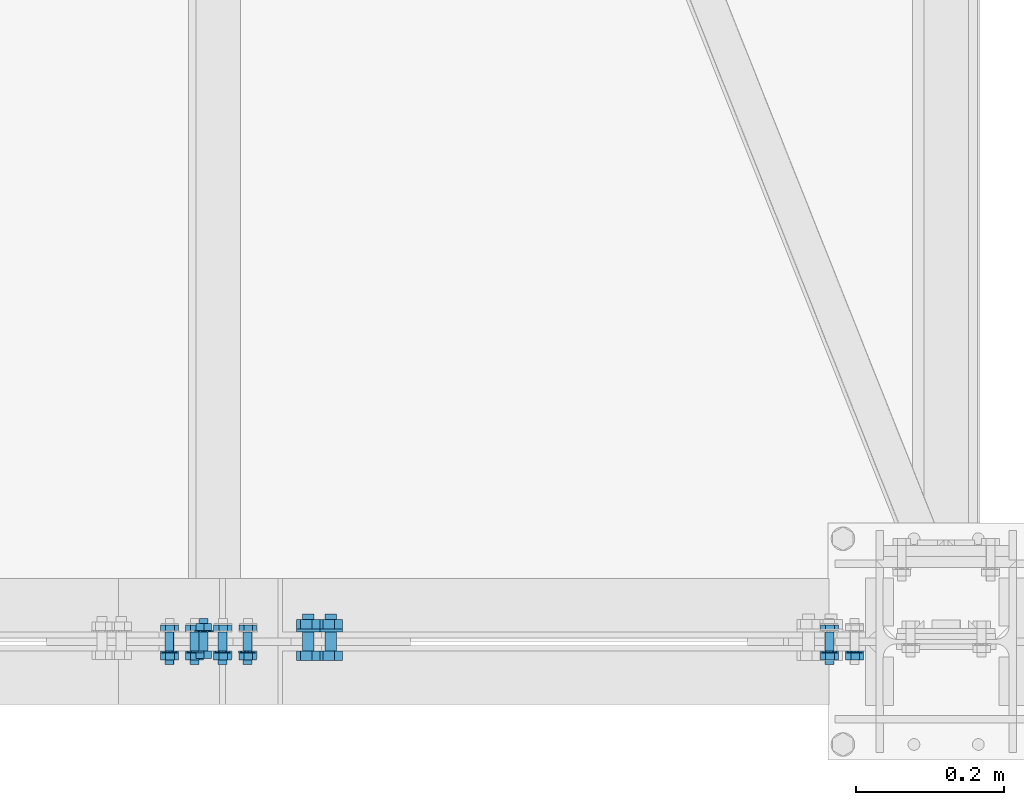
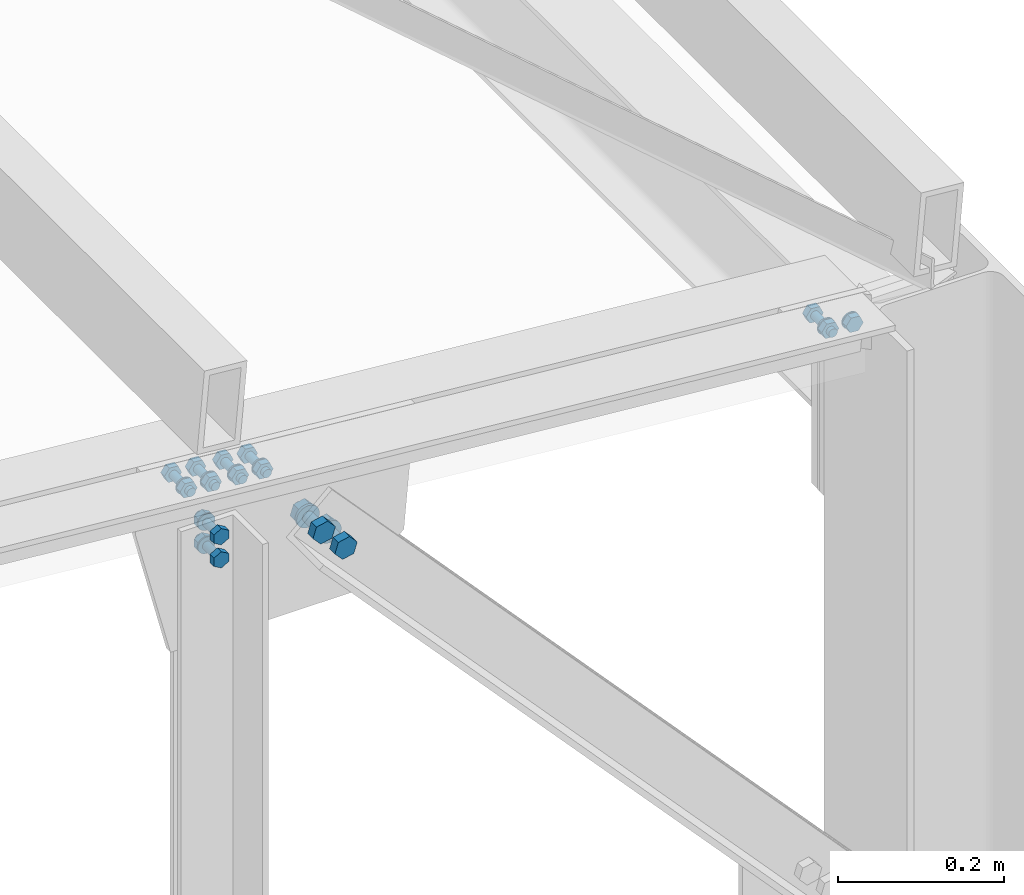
# One storey, part 96 of 251: 38 mechanical fasteners.
"""IFC4 building model written with IfcOpenShell, lengths in metres."""

import ifcopenshell
import ifcopenshell.guid

model = None  # the IFC model being written
_history = None  # IfcOwnerHistory: only IFC2X3 demands one
_inside = {}  # id of a spatial element -> (the spatial element, [elements in it])
_under = {}  # id of a project, library or spatial element -> (it, [spatial elements below it])
_declared = {}  # id of a project -> (the project, [libraries it declares])
_typed = {}  # id of a type object -> (the type object, [elements of that type])
_made_of = {}  # id of a material, layer set ... -> (it, [elements and type objects made of it])


def new_model(schema):
    """Start an empty IFC model of exactly this schema.

    Asked for "IFC4X3", IfcOpenShell would pick the latest addendum, in which some entities
    have other attributes; the version numbers below select the first issue.
    IFC2X3 requires an IfcOwnerHistory on every rooted entity: one is made here for all.
    """
    global model, _history
    if schema == "IFC4X3":
        model = ifcopenshell.file(schema_version=(4, 3, 0, 0))
    else:
        model = ifcopenshell.file(schema=schema)
    _inside.clear()
    _under.clear()
    _declared.clear()
    _typed.clear()
    _made_of.clear()
    _history = None
    if model.schema == "IFC2X3":
        org = make("IfcOrganization", Name="unknown")
        user = make(
            "IfcPersonAndOrganization",
            ThePerson=make("IfcPerson", FamilyName="unknown"),
            TheOrganization=org,
        )
        app = make(
            "IfcApplication",
            ApplicationDeveloper=org,
            Version="unknown",
            ApplicationFullName="unknown",
            ApplicationIdentifier="unknown",
        )
        _history = make(
            "IfcOwnerHistory",
            OwningUser=user,
            OwningApplication=app,
            ChangeAction="ADDED",
            CreationDate=0,
        )
    return model


def make(cls, **values):
    """One entity of the class cls with the attributes given. An attribute that is None is left unset."""
    return model.create_entity(
        cls, **{name: value for name, value in values.items() if value is not None}
    )


def rooted(cls, **values):
    """An entity with a GlobalId (a new one), such as an element, a storey or a relation."""
    return make(cls, GlobalId=ifcopenshell.guid.new(), OwnerHistory=_history, **values)


def si_unit(unit_type, name, prefix=None):
    """IfcSIUnit, for example si_unit("LENGTHUNIT", "METRE", prefix="MILLI")."""
    return make("IfcSIUnit", UnitType=unit_type, Prefix=prefix, Name=name)


def assignment(units):
    """IfcUnitAssignment: the units of a project."""
    return None if units is None else make("IfcUnitAssignment", Units=units)


def point(xyz):
    """IfcCartesianPoint."""
    return None if xyz is None else make("IfcCartesianPoint", Coordinates=xyz)


def direction(xyz):
    """IfcDirection."""
    return None if xyz is None else make("IfcDirection", DirectionRatios=xyz)


def frame(location, z_axis=None, x_axis=None):
    """IfcAxis2Placement3D, a coordinate frame: its origin and axes. An axis left out is left unset."""
    return make(
        "IfcAxis2Placement3D",
        Location=point(location),
        Axis=direction(z_axis),
        RefDirection=direction(x_axis),
    )


def origin_with_axes():
    """The frame at (0, 0, 0) with the z axis (0, 0, 1) and the x axis (1, 0, 0) written out."""
    return frame((0.0, 0.0, 0.0), z_axis=(0.0, 0.0, 1.0), x_axis=(1.0, 0.0, 0.0))


def place(relative_to, where):
    """IfcLocalPlacement: puts the frame where relative to a parent placement (None: the world)."""
    return make(
        "IfcLocalPlacement", PlacementRelTo=relative_to, RelativePlacement=where
    )


def context(
    kind, dimensions, precision=None, world=None, true_north=None, identifier=None
):
    """IfcGeometricRepresentationContext, for example the 3D "Model" context."""
    return make(
        "IfcGeometricRepresentationContext",
        ContextIdentifier=identifier,
        ContextType=kind,
        CoordinateSpaceDimension=dimensions,
        Precision=precision,
        WorldCoordinateSystem=world,
        TrueNorth=true_north,
    )


def project(units=None, contexts=None):
    """IfcProject with its units and contexts."""
    return rooted(
        "IfcProject",
        Name="project",
        RepresentationContexts=contexts,
        UnitsInContext=assignment(units),
    )


def spatial(cls, under=None, at=None, **own):
    """A site, building, storey or space (cls), placed at a placement, below another one or the project."""
    s = rooted(cls, ObjectPlacement=at, **own)
    if under is not None:
        _under.setdefault(under.id(), (under, []))[1].append(s)
    return s


def polyline(points):
    """IfcPolyline through the points."""
    return make("IfcPolyline", Points=[point(p) for p in points])


def outline(outer, holes=None, kind="AREA"):
    """IfcArbitraryClosedProfileDef: a profile drawn as a closed curve; with holes, ...WithVoids."""
    if holes is None:
        return make("IfcArbitraryClosedProfileDef", ProfileType=kind, OuterCurve=outer)
    return make(
        "IfcArbitraryProfileDefWithVoids",
        ProfileType=kind,
        OuterCurve=outer,
        InnerCurves=holes,
    )


def extrude(swept, where, along, depth):
    """IfcExtrudedAreaSolid: the profile swept, set in the frame where, extruded along a direction by depth."""
    return make(
        "IfcExtrudedAreaSolid",
        SweptArea=swept,
        Position=where,
        ExtrudedDirection=direction(along),
        Depth=depth,
    )


def shape(context_of_items, identifier, shape_type, items):
    """IfcShapeRepresentation: the items that make up one representation, for example the "Body"."""
    return make(
        "IfcShapeRepresentation",
        ContextOfItems=context_of_items,
        RepresentationIdentifier=identifier,
        RepresentationType=shape_type,
        Items=items,
    )


def made_of(thing, what):
    """Note that an element or type object is made of a material, layer set ...; save() writes the relation."""
    if what is not None:
        _made_of.setdefault(what.id(), (what, []))[1].append(thing)
    return thing


def type_object(cls, material=None, **own):
    """A type object (cls), such as IfcWallType, which elements share."""
    return made_of(rooted(cls, **own), material)


def element(
    cls,
    number,
    at=None,
    inside=None,
    cuts=None,
    type_object=None,
    material=None,
    context=None,
    identifier="Body",
    shape_type=None,
    held_by="IfcProductDefinitionShape",
    body=None,
    shapes=None,
    **own,
):
    """One element of the class cls, such as IfcWall. Its Tag is "e" and its number.

    at: its placement. inside: the storey or other place that contains it. cuts: it is an
    opening in that element (IfcRelVoidsElement). A single representation is given by context,
    identifier, shape_type and body (its items); several are given by shapes. held_by: the class
    of the entity that holds the representations. save() writes the other relations.
    """
    e = rooted(cls, Tag="e%d" % number, ObjectPlacement=at, **own)
    if body is not None:
        shapes = [shape(context, identifier, shape_type, body)]
    if shapes is not None:
        e.Representation = make(held_by, Representations=shapes)
    if inside is not None:
        _inside.setdefault(inside.id(), (inside, []))[1].append(e)
    if cuts is not None:
        rooted(
            "IfcRelVoidsElement", RelatingBuildingElement=cuts, RelatedOpeningElement=e
        )
    if type_object is not None:
        _typed.setdefault(type_object.id(), (type_object, []))[1].append(e)
    return made_of(e, material)


def aggregate(whole, parts):
    """IfcRelAggregates: a whole, such as a stair, and the parts it consists of."""
    return rooted("IfcRelAggregates", RelatingObject=whole, RelatedObjects=parts)


def save(model, path):
    """Write the relations noted so far, then the file.

    IfcRelAggregates (storeys below a building ...), IfcRelContainedInSpatialStructure (elements
    in a storey), IfcRelDefinesByType, IfcRelAssociatesMaterial and IfcRelDeclares: one each for
    every whole, place, type object, material and project.
    """
    for whole, parts in _under.values():
        aggregate(whole, parts)
    for where, things in _inside.values():
        rooted(
            "IfcRelContainedInSpatialStructure",
            RelatedElements=things,
            RelatingStructure=where,
        )
    for kind, things in _typed.values():
        rooted("IfcRelDefinesByType", RelatedObjects=things, RelatingType=kind)
    for what, things in _made_of.values():
        rooted("IfcRelAssociatesMaterial", RelatedObjects=things, RelatingMaterial=what)
    for by, libraries in _declared.values():
        rooted("IfcRelDeclares", RelatingContext=by, RelatedDefinitions=libraries)
    model.write(path)


model = new_model("IFC4")

# Units and contexts
model_context = context("Model", 3, precision=1e-05, world=origin_with_axes())
ifc_project = project(units=[si_unit("LENGTHUNIT", "METRE"), si_unit("AREAUNIT", "SQUARE_METRE"), si_unit("VOLUMEUNIT", "CUBIC_METRE"), si_unit("MASSUNIT", "GRAM", prefix="KILO"), si_unit("TIMEUNIT", "SECOND"), si_unit("PLANEANGLEUNIT", "RADIAN"), si_unit("SOLIDANGLEUNIT", "STERADIAN"), si_unit("THERMODYNAMICTEMPERATUREUNIT", "DEGREE_CELSIUS")], contexts=[model_context])

# Site, building, storey
placement_1 = place(None, origin_with_axes())
site = spatial("IfcSite", under=ifc_project, at=placement_1, Name="Italia", CompositionType="ELEMENT")
building = spatial("IfcBuilding", under=site, at=placement_1, Name="Deposito", CompositionType="ELEMENT")
storey = spatial("IfcBuildingStorey", under=building, at=placement_1, Name="Storey 0", CompositionType="ELEMENT", Elevation=0.0)

# Mechanical fasteners
mechanical_fastener_type_1 = type_object("IfcMechanicalFastenerType", Name="Reticolare 2", PredefinedType="BOLT")
placement_2 = place(placement_1, origin_with_axes())
mechanical_fastener_1_placement = place(placement_2, origin_with_axes())
element("IfcMechanicalFastener", 1, at=mechanical_fastener_1_placement, inside=storey, type_object=mechanical_fastener_type_1, Name="Reticolare 2", NominalDiameter=0.011999, context=model_context, shape_type="SweptSolid", body=[
    extrude(outline(polyline([(0.0, 0.0), (0.0119534, 0.00104618), (0.018837, -0.00878382), (0.0137653, -0.0196595), (0.00181198, -0.0207052), (-0.00507164, -0.0108757), (0.0, 0.0)])), frame((19.8831, -0.0246, 6.01363), z_axis=(0.0, 1.0, 0.0), x_axis=(-1.0, 0.0, 0.0)), (0.0, 0.0, 1.0), 0.0096),
])
mechanical_fastener_type_2 = type_object("IfcMechanicalFastenerType", Name="Reticolare 2", PredefinedType="BOLT")
mechanical_fastener_2_placement = place(placement_2, origin_with_axes())
element("IfcMechanicalFastener", 2, at=mechanical_fastener_2_placement, inside=storey, type_object=mechanical_fastener_type_2, Name="Reticolare 2", NominalDiameter=0.024, context=model_context, shape_type="SweptSolid", body=[
    extrude(outline(polyline([(0.0, 0.0), (-0.000408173, -0.00310564), (-0.00160599, -0.00600004), (-0.00351334, -0.00848532), (-0.00599861, -0.0103922), (-0.00889397, -0.011591), (-0.0119991, -0.0120001), (-0.0151043, -0.011591), (-0.0179996, -0.0103922), (-0.0204849, -0.00848532), (-0.0223923, -0.00600004), (-0.0235901, -0.00310564), (-0.0239983, 0.0), (-0.0235901, 0.00310564), (-0.0223923, 0.00600004), (-0.0204849, 0.00848532), (-0.0179996, 0.0103922), (-0.0151043, 0.011591), (-0.0119991, 0.0120001), (-0.00889397, 0.011591), (-0.00599861, 0.0103922), (-0.00351334, 0.00848532), (-0.00160599, 0.00600004), (-0.000408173, 0.00310564), (0.0, 0.0)])), frame((19.8642, -0.015, 6.0038), z_axis=(0.0, 1.0, 0.0), x_axis=(-1.0, 0.0, 0.0)), (0.0, 0.0, 1.0), 0.002),
])
mechanical_fastener_type_3 = type_object("IfcMechanicalFastenerType", Name="Reticolare 2", PredefinedType="BOLT")
mechanical_fastener_3_placement = place(placement_2, origin_with_axes())
element("IfcMechanicalFastener", 3, at=mechanical_fastener_3_placement, inside=storey, type_object=mechanical_fastener_type_3, Name="Reticolare 2", NominalDiameter=0.011999, context=model_context, shape_type="SweptSolid", body=[
    extrude(outline(polyline([(0.0, 0.0), (0.0119534, 0.0010457), (0.018837, -0.00878429), (0.0137653, -0.01966), (0.00181198, -0.0207057), (-0.00507164, -0.0108757), (0.0, 0.0)])), frame((19.8492, 0.013, 6.0166), z_axis=(0.0, 1.0, 0.0), x_axis=(-1.0, 0.0, 0.0)), (0.0, 0.0, 1.0), 0.0096),
])
mechanical_fastener_type_4 = type_object("IfcMechanicalFastenerType", Name="Reticolare 2", PredefinedType="BOLT")
mechanical_fastener_4_placement = place(placement_2, origin_with_axes())
element("IfcMechanicalFastener", 4, at=mechanical_fastener_4_placement, inside=storey, type_object=mechanical_fastener_type_4, Name="Reticolare 2", NominalDiameter=0.012, context=model_context, shape_type="SweptSolid", body=[
    extrude(outline(polyline([(0.0, 0.0), (-0.000204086, -0.00155306), (-0.000804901, -0.00299978), (-0.00175858, -0.00424242), (-0.00300026, -0.00519609), (-0.00444794, -0.00579548), (-0.00600052, -0.00600004), (-0.0075531, -0.00579548), (-0.00900078, -0.00519609), (-0.0102425, -0.00424242), (-0.0111961, -0.00299978), (-0.011797, -0.00155306), (-0.012001, 0.0), (-0.011797, 0.00155306), (-0.0111961, 0.00299978), (-0.0102425, 0.00424242), (-0.00900078, 0.00519609), (-0.0075531, 0.00579548), (-0.00600052, 0.00600004), (-0.00444794, 0.00579548), (-0.00300026, 0.00519609), (-0.00175858, 0.00424242), (-0.000804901, 0.00299978), (-0.000204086, 0.00155306), (0.0, 0.0)])), frame((19.8363, -0.031, 6.00677), z_axis=(0.0, 1.0, 0.0), x_axis=(-1.0, 0.0, 0.0)), (0.0, 0.0, 1.0), 0.044),
])
mechanical_fastener_type_5 = type_object("IfcMechanicalFastenerType", Name="Reticolare 2", PredefinedType="BOLT")
mechanical_fastener_5_placement = place(placement_2, origin_with_axes())
element("IfcMechanicalFastener", 5, at=mechanical_fastener_5_placement, inside=storey, type_object=mechanical_fastener_type_5, Name="Reticolare 2", NominalDiameter=0.011999, context=model_context, shape_type="SweptSolid", body=[
    extrude(outline(polyline([(0.0, 0.0), (0.0119534, 0.0010457), (0.018837, -0.00878429), (0.0137653, -0.01966), (0.00181198, -0.0207057), (-0.00507164, -0.0108757), (0.0, 0.0)])), frame((19.8492, -0.0246, 6.0166), z_axis=(0.0, 1.0, 0.0), x_axis=(-1.0, 0.0, 0.0)), (0.0, 0.0, 1.0), 0.0096),
])
mechanical_fastener_type_6 = type_object("IfcMechanicalFastenerType", Name="Reticolare 2", PredefinedType="BOLT")
mechanical_fastener_6_placement = place(placement_2, origin_with_axes())
element("IfcMechanicalFastener", 6, at=mechanical_fastener_6_placement, inside=storey, type_object=mechanical_fastener_type_6, Name="Reticolare 2", NominalDiameter=0.024, context=model_context, shape_type="SweptSolid", body=[
    extrude(outline(polyline([(0.0, 0.0), (-0.000408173, -0.00310564), (-0.00160599, -0.00600004), (-0.00351334, -0.00848532), (-0.00599861, -0.0103922), (-0.00889397, -0.011591), (-0.0119991, -0.0120001), (-0.0151043, -0.011591), (-0.0179996, -0.0103922), (-0.0204849, -0.00848532), (-0.0223923, -0.00600004), (-0.0235901, -0.00310564), (-0.0239983, 0.0), (-0.0235901, 0.00310564), (-0.0223923, 0.00600004), (-0.0204849, 0.00848532), (-0.0179996, 0.0103922), (-0.0151043, 0.011591), (-0.0119991, 0.0120001), (-0.00889397, 0.011591), (-0.00599861, 0.0103922), (-0.00351334, 0.00848532), (-0.00160599, 0.00600004), (-0.000408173, 0.00310564), (0.0, 0.0)])), frame((19.8303, -0.015, 6.00677), z_axis=(0.0, 1.0, 0.0), x_axis=(-1.0, 0.0, 0.0)), (0.0, 0.0, 1.0), 0.002),
])
mechanical_fastener_type_7 = type_object("IfcMechanicalFastenerType", Name="Reticolare 2", PredefinedType="BOLT")
mechanical_fastener_7_placement = place(placement_2, origin_with_axes())
element("IfcMechanicalFastener", 7, at=mechanical_fastener_7_placement, inside=storey, type_object=mechanical_fastener_type_7, Name="Reticolare 2", NominalDiameter=0.011999, context=model_context, shape_type="SweptSolid", body=[
    extrude(outline(polyline([(0.0, 0.0), (0.0119534, 0.0010457), (0.018837, -0.00878429), (0.0137653, -0.01966), (0.00181007, -0.0207057), (-0.00507164, -0.0108757), (0.0, 0.0)])), frame((19.029, 0.013, 6.08836), z_axis=(0.0, 1.0, 0.0), x_axis=(-1.0, 0.0, 0.0)), (0.0, 0.0, 1.0), 0.0096),
])
mechanical_fastener_type_8 = type_object("IfcMechanicalFastenerType", Name="Reticolare 2", PredefinedType="BOLT")
mechanical_fastener_8_placement = place(placement_2, origin_with_axes())
element("IfcMechanicalFastener", 8, at=mechanical_fastener_8_placement, inside=storey, type_object=mechanical_fastener_type_8, Name="Reticolare 2", NominalDiameter=0.012, context=model_context, shape_type="SweptSolid", body=[
    extrude(outline(polyline([(0.0, 0.0), (-0.000204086, -0.00155306), (-0.000804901, -0.00299978), (-0.00175858, -0.00424242), (-0.00300026, -0.00519609), (-0.00444794, -0.00579548), (-0.00600052, -0.00600004), (-0.0075531, -0.00579548), (-0.00900078, -0.00519609), (-0.0102425, -0.00424242), (-0.0111961, -0.00299978), (-0.011797, -0.00155306), (-0.012001, 0.0), (-0.011797, 0.00155306), (-0.0111961, 0.00299978), (-0.0102425, 0.00424242), (-0.00900078, 0.00519609), (-0.0075531, 0.00579548), (-0.00600052, 0.00600004), (-0.00444794, 0.00579548), (-0.00300026, 0.00519609), (-0.00175858, 0.00424242), (-0.000804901, 0.00299978), (-0.000204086, 0.00155306), (0.0, 0.0)])), frame((19.0161, -0.031, 6.07853), z_axis=(0.0, 1.0, 0.0), x_axis=(-1.0, 0.0, 0.0)), (0.0, 0.0, 1.0), 0.044),
])
mechanical_fastener_type_9 = type_object("IfcMechanicalFastenerType", Name="Reticolare 2", PredefinedType="BOLT")
mechanical_fastener_9_placement = place(placement_2, origin_with_axes())
element("IfcMechanicalFastener", 9, at=mechanical_fastener_9_placement, inside=storey, type_object=mechanical_fastener_type_9, Name="Reticolare 2", NominalDiameter=0.011999, context=model_context, shape_type="SweptSolid", body=[
    extrude(outline(polyline([(0.0, 0.0), (0.0119534, 0.0010457), (0.018837, -0.00878429), (0.0137653, -0.01966), (0.00181007, -0.0207057), (-0.00507164, -0.0108757), (0.0, 0.0)])), frame((19.029, -0.0246, 6.08836), z_axis=(0.0, 1.0, 0.0), x_axis=(-1.0, 0.0, 0.0)), (0.0, 0.0, 1.0), 0.0096),
])
mechanical_fastener_type_10 = type_object("IfcMechanicalFastenerType", Name="Reticolare 2", PredefinedType="BOLT")
mechanical_fastener_10_placement = place(placement_2, origin_with_axes())
element("IfcMechanicalFastener", 10, at=mechanical_fastener_10_placement, inside=storey, type_object=mechanical_fastener_type_10, Name="Reticolare 2", NominalDiameter=0.024, context=model_context, shape_type="SweptSolid", body=[
    extrude(outline(polyline([(0.0, 0.0), (-0.000408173, -0.00310564), (-0.00160599, -0.00600004), (-0.00351334, -0.00848532), (-0.00599861, -0.0103922), (-0.00889397, -0.011591), (-0.0119991, -0.0120001), (-0.0151043, -0.011591), (-0.0179996, -0.0103922), (-0.0204849, -0.00848532), (-0.0223923, -0.00600004), (-0.0235901, -0.00310564), (-0.0239983, 0.0), (-0.0235901, 0.00310564), (-0.0223923, 0.00600004), (-0.0204849, 0.00848532), (-0.0179996, 0.0103922), (-0.0151043, 0.011591), (-0.0119991, 0.0120001), (-0.00889397, 0.011591), (-0.00599861, 0.0103922), (-0.00351334, 0.00848532), (-0.00160599, 0.00600004), (-0.000408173, 0.00310564), (0.0, 0.0)])), frame((19.0101, -0.015, 6.07853), z_axis=(0.0, 1.0, 0.0), x_axis=(-1.0, 0.0, 0.0)), (0.0, 0.0, 1.0), 0.002),
])
mechanical_fastener_type_11 = type_object("IfcMechanicalFastenerType", Name="Reticolare 2", PredefinedType="BOLT")
mechanical_fastener_11_placement = place(placement_2, origin_with_axes())
element("IfcMechanicalFastener", 11, at=mechanical_fastener_11_placement, inside=storey, type_object=mechanical_fastener_type_11, Name="Reticolare 2", NominalDiameter=0.011999, context=model_context, shape_type="SweptSolid", body=[
    extrude(outline(polyline([(0.0, 0.0), (0.0119534, 0.0010457), (0.018837, -0.00878382), (0.0137653, -0.0196595), (0.00181007, -0.0207052), (-0.00507164, -0.0108757), (0.0, 0.0)])), frame((19.0629, 0.013, 6.08539), z_axis=(0.0, 1.0, 0.0), x_axis=(-1.0, 0.0, 0.0)), (0.0, 0.0, 1.0), 0.0096),
])
mechanical_fastener_type_12 = type_object("IfcMechanicalFastenerType", Name="Reticolare 2", PredefinedType="BOLT")
mechanical_fastener_12_placement = place(placement_2, origin_with_axes())
element("IfcMechanicalFastener", 12, at=mechanical_fastener_12_placement, inside=storey, type_object=mechanical_fastener_type_12, Name="Reticolare 2", NominalDiameter=0.012, context=model_context, shape_type="SweptSolid", body=[
    extrude(outline(polyline([(0.0, 0.0), (-0.000204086, -0.00155306), (-0.000804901, -0.00299978), (-0.00175858, -0.00424242), (-0.00300026, -0.00519609), (-0.00444794, -0.00579548), (-0.00600052, -0.00600004), (-0.0075531, -0.00579548), (-0.00900078, -0.00519609), (-0.0102425, -0.00424242), (-0.0111961, -0.00299978), (-0.011797, -0.00155306), (-0.012001, 0.0), (-0.011797, 0.00155306), (-0.0111961, 0.00299978), (-0.0102425, 0.00424242), (-0.00900078, 0.00519609), (-0.0075531, 0.00579548), (-0.00600052, 0.00600004), (-0.00444794, 0.00579548), (-0.00300026, 0.00519609), (-0.00175858, 0.00424242), (-0.000804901, 0.00299978), (-0.000204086, 0.00155306), (0.0, 0.0)])), frame((19.05, -0.031, 6.07556), z_axis=(0.0, 1.0, 0.0), x_axis=(-1.0, 0.0, 0.0)), (0.0, 0.0, 1.0), 0.044),
])
mechanical_fastener_type_13 = type_object("IfcMechanicalFastenerType", Name="Reticolare 2", PredefinedType="BOLT")
mechanical_fastener_13_placement = place(placement_2, origin_with_axes())
element("IfcMechanicalFastener", 13, at=mechanical_fastener_13_placement, inside=storey, type_object=mechanical_fastener_type_13, Name="Reticolare 2", NominalDiameter=0.011999, context=model_context, shape_type="SweptSolid", body=[
    extrude(outline(polyline([(0.0, 0.0), (0.0119534, 0.0010457), (0.018837, -0.00878382), (0.0137653, -0.0196595), (0.00181007, -0.0207052), (-0.00507164, -0.0108757), (0.0, 0.0)])), frame((19.0629, -0.0246, 6.08539), z_axis=(0.0, 1.0, 0.0), x_axis=(-1.0, 0.0, 0.0)), (0.0, 0.0, 1.0), 0.0096),
])
mechanical_fastener_type_14 = type_object("IfcMechanicalFastenerType", Name="Reticolare 2", PredefinedType="BOLT")
mechanical_fastener_14_placement = place(placement_2, origin_with_axes())
element("IfcMechanicalFastener", 14, at=mechanical_fastener_14_placement, inside=storey, type_object=mechanical_fastener_type_14, Name="Reticolare 2", NominalDiameter=0.024, context=model_context, shape_type="SweptSolid", body=[
    extrude(outline(polyline([(0.0, 0.0), (-0.000408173, -0.00310564), (-0.00160599, -0.00600004), (-0.00351334, -0.00848532), (-0.00599861, -0.0103922), (-0.00889397, -0.011591), (-0.0119991, -0.0120001), (-0.0151043, -0.011591), (-0.0179996, -0.0103922), (-0.0204849, -0.00848532), (-0.0223923, -0.00600004), (-0.0235901, -0.00310564), (-0.0239983, 0.0), (-0.0235901, 0.00310564), (-0.0223923, 0.00600004), (-0.0204849, 0.00848532), (-0.0179996, 0.0103922), (-0.0151043, 0.011591), (-0.0119991, 0.0120001), (-0.00889397, 0.011591), (-0.00599861, 0.0103922), (-0.00351334, 0.00848532), (-0.00160599, 0.00600004), (-0.000408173, 0.00310564), (0.0, 0.0)])), frame((19.044, -0.015, 6.07556), z_axis=(0.0, 1.0, 0.0), x_axis=(-1.0, 0.0, 0.0)), (0.0, 0.0, 1.0), 0.002),
])
mechanical_fastener_type_15 = type_object("IfcMechanicalFastenerType", Name="Reticolare 2", PredefinedType="BOLT")
mechanical_fastener_15_placement = place(placement_2, origin_with_axes())
element("IfcMechanicalFastener", 15, at=mechanical_fastener_15_placement, inside=storey, type_object=mechanical_fastener_type_15, Name="Reticolare 2", NominalDiameter=0.011999, context=model_context, shape_type="SweptSolid", body=[
    extrude(outline(polyline([(0.0, 0.0), (0.0119534, 0.00104618), (0.018837, -0.00878382), (0.0137653, -0.0196595), (0.00181198, -0.0207052), (-0.00507164, -0.0108757), (0.0, 0.0)])), frame((18.9911, 0.013, 6.09167), z_axis=(0.0, 1.0, 0.0), x_axis=(-1.0, 0.0, 0.0)), (0.0, 0.0, 1.0), 0.0096),
])
mechanical_fastener_type_16 = type_object("IfcMechanicalFastenerType", Name="Reticolare 2", PredefinedType="BOLT")
mechanical_fastener_16_placement = place(placement_2, origin_with_axes())
element("IfcMechanicalFastener", 16, at=mechanical_fastener_16_placement, inside=storey, type_object=mechanical_fastener_type_16, Name="Reticolare 2", NominalDiameter=0.012, context=model_context, shape_type="SweptSolid", body=[
    extrude(outline(polyline([(0.0, 0.0), (-0.000204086, -0.00155306), (-0.000804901, -0.00299978), (-0.00175858, -0.00424242), (-0.00300026, -0.00519609), (-0.00444794, -0.00579548), (-0.00600052, -0.00600004), (-0.0075531, -0.00579548), (-0.00900078, -0.00519609), (-0.0102425, -0.00424242), (-0.0111961, -0.00299978), (-0.011797, -0.00155306), (-0.012001, 0.0), (-0.011797, 0.00155306), (-0.0111961, 0.00299978), (-0.0102425, 0.00424242), (-0.00900078, 0.00519609), (-0.0075531, 0.00579548), (-0.00600052, 0.00600004), (-0.00444794, 0.00579548), (-0.00300026, 0.00519609), (-0.00175858, 0.00424242), (-0.000804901, 0.00299978), (-0.000204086, 0.00155306), (0.0, 0.0)])), frame((18.9783, -0.031, 6.08184), z_axis=(0.0, 1.0, 0.0), x_axis=(-1.0, 0.0, 0.0)), (0.0, 0.0, 1.0), 0.044),
])
mechanical_fastener_type_17 = type_object("IfcMechanicalFastenerType", Name="Reticolare 2", PredefinedType="BOLT")
mechanical_fastener_17_placement = place(placement_2, origin_with_axes())
element("IfcMechanicalFastener", 17, at=mechanical_fastener_17_placement, inside=storey, type_object=mechanical_fastener_type_17, Name="Reticolare 2", NominalDiameter=0.011999, context=model_context, shape_type="SweptSolid", body=[
    extrude(outline(polyline([(0.0, 0.0), (0.0119534, 0.00104618), (0.018837, -0.00878382), (0.0137653, -0.0196595), (0.00181198, -0.0207052), (-0.00507164, -0.0108757), (0.0, 0.0)])), frame((18.9911, -0.0246, 6.09167), z_axis=(0.0, 1.0, 0.0), x_axis=(-1.0, 0.0, 0.0)), (0.0, 0.0, 1.0), 0.0096),
])
mechanical_fastener_type_18 = type_object("IfcMechanicalFastenerType", Name="Reticolare 2", PredefinedType="BOLT")
mechanical_fastener_18_placement = place(placement_2, origin_with_axes())
element("IfcMechanicalFastener", 18, at=mechanical_fastener_18_placement, inside=storey, type_object=mechanical_fastener_type_18, Name="Reticolare 2", NominalDiameter=0.024, context=model_context, shape_type="SweptSolid", body=[
    extrude(outline(polyline([(0.0, 0.0), (-0.000408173, -0.00310564), (-0.00160599, -0.00600004), (-0.00351334, -0.00848532), (-0.00599861, -0.0103922), (-0.00889397, -0.011591), (-0.0119991, -0.0120001), (-0.0151043, -0.011591), (-0.0179996, -0.0103922), (-0.0204849, -0.00848532), (-0.0223923, -0.00600004), (-0.0235901, -0.00310564), (-0.0239983, 0.0), (-0.0235901, 0.00310564), (-0.0223923, 0.00600004), (-0.0204849, 0.00848532), (-0.0179996, 0.0103922), (-0.0151043, 0.011591), (-0.0119991, 0.0120001), (-0.00889397, 0.011591), (-0.00599861, 0.0103922), (-0.00351334, 0.00848532), (-0.00160599, 0.00600004), (-0.000408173, 0.00310564), (0.0, 0.0)])), frame((18.9723, -0.015, 6.08184), z_axis=(0.0, 1.0, 0.0), x_axis=(-1.0, 0.0, 0.0)), (0.0, 0.0, 1.0), 0.002),
])
mechanical_fastener_type_19 = type_object("IfcMechanicalFastenerType", Name="Reticolare 2", PredefinedType="BOLT")
mechanical_fastener_19_placement = place(placement_2, origin_with_axes())
element("IfcMechanicalFastener", 19, at=mechanical_fastener_19_placement, inside=storey, type_object=mechanical_fastener_type_19, Name="Reticolare 2", NominalDiameter=0.011999, context=model_context, shape_type="SweptSolid", body=[
    extrude(outline(polyline([(0.0, 0.0), (0.0119534, 0.0010457), (0.018837, -0.00878429), (0.0137653, -0.01966), (0.00181198, -0.0207057), (-0.00507164, -0.0108757), (0.0, 0.0)])), frame((18.9573, 0.013, 6.09463), z_axis=(0.0, 1.0, 0.0), x_axis=(-1.0, 0.0, 0.0)), (0.0, 0.0, 1.0), 0.0096),
])
mechanical_fastener_type_20 = type_object("IfcMechanicalFastenerType", Name="Reticolare 2", PredefinedType="BOLT")
mechanical_fastener_20_placement = place(placement_2, origin_with_axes())
element("IfcMechanicalFastener", 20, at=mechanical_fastener_20_placement, inside=storey, type_object=mechanical_fastener_type_20, Name="Reticolare 2", NominalDiameter=0.012, context=model_context, shape_type="SweptSolid", body=[
    extrude(outline(polyline([(0.0, 0.0), (-0.000204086, -0.00155306), (-0.000804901, -0.00299978), (-0.00175858, -0.00424242), (-0.00300026, -0.00519609), (-0.00444794, -0.00579548), (-0.00600052, -0.00600004), (-0.0075531, -0.00579548), (-0.00900078, -0.00519609), (-0.0102425, -0.00424242), (-0.0111961, -0.00299978), (-0.011797, -0.00155306), (-0.012001, 0.0), (-0.011797, 0.00155306), (-0.0111961, 0.00299978), (-0.0102425, 0.00424242), (-0.00900078, 0.00519609), (-0.0075531, 0.00579548), (-0.00600052, 0.00600004), (-0.00444794, 0.00579548), (-0.00300026, 0.00519609), (-0.00175858, 0.00424242), (-0.000804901, 0.00299978), (-0.000204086, 0.00155306), (0.0, 0.0)])), frame((18.9444, -0.031, 6.0848), z_axis=(0.0, 1.0, 0.0), x_axis=(-1.0, 0.0, 0.0)), (0.0, 0.0, 1.0), 0.044),
])
mechanical_fastener_type_21 = type_object("IfcMechanicalFastenerType", Name="Reticolare 2", PredefinedType="BOLT")
mechanical_fastener_21_placement = place(placement_2, origin_with_axes())
element("IfcMechanicalFastener", 21, at=mechanical_fastener_21_placement, inside=storey, type_object=mechanical_fastener_type_21, Name="Reticolare 2", NominalDiameter=0.011999, context=model_context, shape_type="SweptSolid", body=[
    extrude(outline(polyline([(0.0, 0.0), (0.0119534, 0.0010457), (0.018837, -0.00878429), (0.0137653, -0.01966), (0.00181198, -0.0207057), (-0.00507164, -0.0108757), (0.0, 0.0)])), frame((18.9573, -0.0246, 6.09463), z_axis=(0.0, 1.0, 0.0), x_axis=(-1.0, 0.0, 0.0)), (0.0, 0.0, 1.0), 0.0096),
])
mechanical_fastener_type_22 = type_object("IfcMechanicalFastenerType", Name="Reticolare 2", PredefinedType="BOLT")
mechanical_fastener_22_placement = place(placement_2, origin_with_axes())
element("IfcMechanicalFastener", 22, at=mechanical_fastener_22_placement, inside=storey, type_object=mechanical_fastener_type_22, Name="Reticolare 2", NominalDiameter=0.024, context=model_context, shape_type="SweptSolid", body=[
    extrude(outline(polyline([(0.0, 0.0), (-0.000408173, -0.00310564), (-0.00160599, -0.00600004), (-0.00351334, -0.00848532), (-0.00599861, -0.0103922), (-0.00889397, -0.011591), (-0.0119991, -0.0120001), (-0.0151043, -0.011591), (-0.0179996, -0.0103922), (-0.0204849, -0.00848532), (-0.0223923, -0.00600004), (-0.0235901, -0.00310564), (-0.0239983, 0.0), (-0.0235901, 0.00310564), (-0.0223923, 0.00600004), (-0.0204849, 0.00848532), (-0.0179996, 0.0103922), (-0.0151043, 0.011591), (-0.0119991, 0.0120001), (-0.00889397, 0.011591), (-0.00599861, 0.0103922), (-0.00351334, 0.00848532), (-0.00160599, 0.00600004), (-0.000408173, 0.00310564), (0.0, 0.0)])), frame((18.9384, -0.015, 6.0848), z_axis=(0.0, 1.0, 0.0), x_axis=(-1.0, 0.0, 0.0)), (0.0, 0.0, 1.0), 0.002),
])
mechanical_fastener_type_23 = type_object("IfcMechanicalFastenerType", Name="Reticolare 2", PredefinedType="BOLT")
mechanical_fastener_23_placement = place(placement_2, origin_with_axes())
element("IfcMechanicalFastener", 23, at=mechanical_fastener_23_placement, inside=storey, type_object=mechanical_fastener_type_23, Name="Reticolare 2", NominalDiameter=0.0120001, context=model_context, shape_type="SweptSolid", body=[
    extrude(outline(polyline([(0.0, 0.0), (0.0, -0.0120001), (-0.0103931, -0.0180001), (-0.0207863, -0.0120001), (-0.0207863, 0.0), (-0.0103931, 0.00600004), (0.0, 0.0)])), frame((19.0072, -0.013, 6.0044), z_axis=(0.0, -1.0, 0.0), x_axis=(1.0, 0.0, 0.0)), (0.0, 0.0, 1.0), 0.0096),
])
mechanical_fastener_type_24 = type_object("IfcMechanicalFastenerType", Name="Reticolare 2", PredefinedType="BOLT")
mechanical_fastener_24_placement = place(placement_2, origin_with_axes())
element("IfcMechanicalFastener", 24, at=mechanical_fastener_24_placement, inside=storey, type_object=mechanical_fastener_type_24, Name="Reticolare 2", NominalDiameter=0.012, context=model_context, shape_type="SweptSolid", body=[
    extrude(outline(polyline([(0.0, 0.0), (-0.000204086, -0.00155306), (-0.000804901, -0.00299978), (-0.00175858, -0.00424242), (-0.00300026, -0.00519609), (-0.00444794, -0.00579548), (-0.00600052, -0.00600004), (-0.0075531, -0.00579548), (-0.00900078, -0.00519609), (-0.0102425, -0.00424242), (-0.0111961, -0.00299978), (-0.011797, -0.00155306), (-0.012001, 0.0), (-0.011797, 0.00155306), (-0.0111961, 0.00299978), (-0.0102425, 0.00424242), (-0.00900078, 0.00519609), (-0.0075531, 0.00579548), (-0.00600052, 0.00600004), (-0.00444794, 0.00579548), (-0.00300026, 0.00519609), (-0.00175858, 0.00424242), (-0.000804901, 0.00299978), (-0.000204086, 0.00155306), (0.0, 0.0)])), frame((19.0028, 0.031, 5.99839), z_axis=(0.0, -1.0, 0.0), x_axis=(1.0, 0.0, 0.0)), (0.0, 0.0, 1.0), 0.044),
])
mechanical_fastener_type_25 = type_object("IfcMechanicalFastenerType", Name="Reticolare 2", PredefinedType="BOLT")
mechanical_fastener_25_placement = place(placement_2, origin_with_axes())
element("IfcMechanicalFastener", 25, at=mechanical_fastener_25_placement, inside=storey, type_object=mechanical_fastener_type_25, Name="Reticolare 2", NominalDiameter=0.0120001, context=model_context, shape_type="SweptSolid", body=[
    extrude(outline(polyline([(0.0, 0.0), (0.0, -0.0120001), (-0.0103931, -0.0180001), (-0.0207863, -0.0120001), (-0.0207863, 0.0), (-0.0103931, 0.00600004), (0.0, 0.0)])), frame((19.0072, 0.0246, 6.0044), z_axis=(0.0, -1.0, 0.0), x_axis=(1.0, 0.0, 0.0)), (0.0, 0.0, 1.0), 0.0096),
])
mechanical_fastener_type_26 = type_object("IfcMechanicalFastenerType", Name="Reticolare 2", PredefinedType="BOLT")
mechanical_fastener_26_placement = place(placement_2, origin_with_axes())
element("IfcMechanicalFastener", 26, at=mechanical_fastener_26_placement, inside=storey, type_object=mechanical_fastener_type_26, Name="Reticolare 2", NominalDiameter=0.024, context=model_context, shape_type="SweptSolid", body=[
    extrude(outline(polyline([(0.0, 0.0), (-0.000408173, -0.00310564), (-0.00160599, -0.00600004), (-0.00351334, -0.00848532), (-0.00599861, -0.0103922), (-0.00889397, -0.011591), (-0.0119991, -0.0120001), (-0.0151043, -0.011591), (-0.0179996, -0.0103922), (-0.0204849, -0.00848532), (-0.0223923, -0.00600004), (-0.0235901, -0.00310564), (-0.0239983, 0.0), (-0.0235901, 0.00310564), (-0.0223923, 0.00600004), (-0.0204849, 0.00848532), (-0.0179996, 0.0103922), (-0.0151043, 0.011591), (-0.0119991, 0.0120001), (-0.00889397, 0.011591), (-0.00599861, 0.0103922), (-0.00351334, 0.00848532), (-0.00160599, 0.00600004), (-0.000408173, 0.00310564), (0.0, 0.0)])), frame((19.0088, 0.015, 5.99839), z_axis=(0.0, -1.0, 0.0), x_axis=(1.0, 0.0, 0.0)), (0.0, 0.0, 1.0), 0.002),
])
mechanical_fastener_type_27 = type_object("IfcMechanicalFastenerType", Name="Reticolare 2", PredefinedType="BOLT")
mechanical_fastener_27_placement = place(placement_2, origin_with_axes())
element("IfcMechanicalFastener", 27, at=mechanical_fastener_27_placement, inside=storey, type_object=mechanical_fastener_type_27, Name="Reticolare 2", NominalDiameter=0.0120001, context=model_context, shape_type="SweptSolid", body=[
    extrude(outline(polyline([(0.0, 0.0), (0.0, -0.0120001), (-0.0103931, -0.0180001), (-0.0207863, -0.0120001), (-0.0207863, 0.0), (-0.0103931, 0.00600004), (0.0, 0.0)])), frame((19.0072, -0.013, 5.9704), z_axis=(0.0, -1.0, 0.0), x_axis=(1.0, 0.0, 0.0)), (0.0, 0.0, 1.0), 0.0096),
])
mechanical_fastener_type_28 = type_object("IfcMechanicalFastenerType", Name="Reticolare 2", PredefinedType="BOLT")
mechanical_fastener_28_placement = place(placement_2, origin_with_axes())
element("IfcMechanicalFastener", 28, at=mechanical_fastener_28_placement, inside=storey, type_object=mechanical_fastener_type_28, Name="Reticolare 2", NominalDiameter=0.012, context=model_context, shape_type="SweptSolid", body=[
    extrude(outline(polyline([(0.0, 0.0), (-0.000204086, -0.00155306), (-0.000804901, -0.00299978), (-0.00175858, -0.00424242), (-0.00300026, -0.00519609), (-0.00444794, -0.00579548), (-0.00600052, -0.00600004), (-0.0075531, -0.00579548), (-0.00900078, -0.00519609), (-0.0102425, -0.00424242), (-0.0111961, -0.00299978), (-0.011797, -0.00155306), (-0.012001, 0.0), (-0.011797, 0.00155306), (-0.0111961, 0.00299978), (-0.0102425, 0.00424242), (-0.00900078, 0.00519609), (-0.0075531, 0.00579548), (-0.00600052, 0.00600004), (-0.00444794, 0.00579548), (-0.00300026, 0.00519609), (-0.00175858, 0.00424242), (-0.000804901, 0.00299978), (-0.000204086, 0.00155306), (0.0, 0.0)])), frame((19.0028, 0.031, 5.9644), z_axis=(0.0, -1.0, 0.0), x_axis=(1.0, 0.0, 0.0)), (0.0, 0.0, 1.0), 0.044),
])
mechanical_fastener_type_29 = type_object("IfcMechanicalFastenerType", Name="Reticolare 2", PredefinedType="BOLT")
mechanical_fastener_29_placement = place(placement_2, origin_with_axes())
element("IfcMechanicalFastener", 29, at=mechanical_fastener_29_placement, inside=storey, type_object=mechanical_fastener_type_29, Name="Reticolare 2", NominalDiameter=0.0120001, context=model_context, shape_type="SweptSolid", body=[
    extrude(outline(polyline([(0.0, 0.0), (0.0, -0.0120001), (-0.0103931, -0.0180001), (-0.0207863, -0.0120001), (-0.0207863, 0.0), (-0.0103931, 0.00600004), (0.0, 0.0)])), frame((19.0072, 0.0246, 5.9704), z_axis=(0.0, -1.0, 0.0), x_axis=(1.0, 0.0, 0.0)), (0.0, 0.0, 1.0), 0.0096),
])
mechanical_fastener_type_30 = type_object("IfcMechanicalFastenerType", Name="Reticolare 2", PredefinedType="BOLT")
mechanical_fastener_30_placement = place(placement_2, origin_with_axes())
element("IfcMechanicalFastener", 30, at=mechanical_fastener_30_placement, inside=storey, type_object=mechanical_fastener_type_30, Name="Reticolare 2", NominalDiameter=0.024, context=model_context, shape_type="SweptSolid", body=[
    extrude(outline(polyline([(0.0, 0.0), (-0.000408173, -0.00310564), (-0.00160599, -0.00600004), (-0.00351334, -0.00848532), (-0.00599861, -0.0103922), (-0.00889397, -0.011591), (-0.0119991, -0.0120001), (-0.0151043, -0.011591), (-0.0179996, -0.0103922), (-0.0204849, -0.00848532), (-0.0223923, -0.00600004), (-0.0235901, -0.00310564), (-0.0239983, 0.0), (-0.0235901, 0.00310564), (-0.0223923, 0.00600004), (-0.0204849, 0.00848532), (-0.0179996, 0.0103922), (-0.0151043, 0.011591), (-0.0119991, 0.0120001), (-0.00889397, 0.011591), (-0.00599861, 0.0103922), (-0.00351334, 0.00848532), (-0.00160599, 0.00600004), (-0.000408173, 0.00310564), (0.0, 0.0)])), frame((19.0088, 0.015, 5.9644), z_axis=(0.0, -1.0, 0.0), x_axis=(1.0, 0.0, 0.0)), (0.0, 0.0, 1.0), 0.002),
])
mechanical_fastener_type_31 = type_object("IfcMechanicalFastenerType", Name="Reticolare 2", PredefinedType="BOLT")
mechanical_fastener_31_placement = place(placement_2, origin_with_axes())
element("IfcMechanicalFastener", 31, at=mechanical_fastener_31_placement, inside=storey, type_object=mechanical_fastener_type_31, Name="Reticolare 2", NominalDiameter=0.0159985, context=model_context, shape_type="SweptSolid", body=[
    extrude(outline(polyline([(0.0, 0.0), (-0.0108089, 0.0117965), (-0.0059967, 0.0270562), (0.00962257, 0.030519), (0.0204334, 0.0187225), (0.0156212, 0.00346327), (0.0, 0.0)])), frame((19.1332, -0.013, 5.94168), z_axis=(0.0, -1.0, 0.0), x_axis=(1.0, 0.0, 0.0)), (0.0, 0.0, 1.0), 0.0128),
])
mechanical_fastener_type_32 = type_object("IfcMechanicalFastenerType", Name="Reticolare 2", PredefinedType="BOLT")
mechanical_fastener_32_placement = place(placement_2, origin_with_axes())
element("IfcMechanicalFastener", 32, at=mechanical_fastener_32_placement, inside=storey, type_object=mechanical_fastener_type_32, Name="Reticolare 2", NominalDiameter=0.016, context=model_context, shape_type="SweptSolid", body=[
    extrude(outline(polyline([(0.0, 0.0), (-0.000272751, -0.00207043), (-0.00107193, -0.00400019), (-0.00234222, -0.00565672), (-0.00399971, -0.00692797), (-0.00592804, -0.00772762), (-0.00799942, -0.0079999), (-0.0100708, -0.00772762), (-0.0119991, -0.00692797), (-0.0136566, -0.00565672), (-0.0149269, -0.00400019), (-0.0157261, -0.00207043), (-0.0159988, 0.0), (-0.0157261, 0.00207043), (-0.0149269, 0.00400019), (-0.0136566, 0.00565672), (-0.0119991, 0.00692797), (-0.0100708, 0.00772762), (-0.00799942, 0.0079999), (-0.00592804, 0.00772762), (-0.00399971, 0.00692797), (-0.00234222, 0.00565672), (-0.00107193, 0.00400019), (-0.000272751, 0.00207043), (0.0, 0.0)])), frame((19.146, 0.037, 5.95694), z_axis=(0.0, -1.0, 0.0), x_axis=(1.0, 0.0, 0.0)), (0.0, 0.0, 1.0), 0.05),
])
mechanical_fastener_type_33 = type_object("IfcMechanicalFastenerType", Name="Reticolare 2", PredefinedType="BOLT")
mechanical_fastener_33_placement = place(placement_2, origin_with_axes())
element("IfcMechanicalFastener", 33, at=mechanical_fastener_33_placement, inside=storey, type_object=mechanical_fastener_type_33, Name="Reticolare 2", NominalDiameter=0.0159985, context=model_context, shape_type="SweptSolid", body=[
    extrude(outline(polyline([(0.0, 0.0), (-0.0108089, 0.0117965), (-0.0059967, 0.0270562), (0.00962257, 0.030519), (0.0204334, 0.0187225), (0.0156212, 0.00346327), (0.0, 0.0)])), frame((19.1332, 0.0298, 5.94168), z_axis=(0.0, -1.0, 0.0), x_axis=(1.0, 0.0, 0.0)), (0.0, 0.0, 1.0), 0.0128),
])
mechanical_fastener_type_34 = type_object("IfcMechanicalFastenerType", Name="Reticolare 2", PredefinedType="BOLT")
mechanical_fastener_34_placement = place(placement_2, origin_with_axes())
element("IfcMechanicalFastener", 34, at=mechanical_fastener_34_placement, inside=storey, type_object=mechanical_fastener_type_34, Name="Reticolare 2", NominalDiameter=0.032, context=model_context, shape_type="SweptSolid", body=[
    extrude(outline(polyline([(0.0, 0.0), (-0.000545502, -0.00414133), (-0.00214386, -0.0079999), (-0.00468636, -0.0113139), (-0.00800133, -0.0138564), (-0.0118599, -0.0154548), (-0.0160007, -0.0159998), (-0.0201416, -0.0154548), (-0.0240002, -0.0138564), (-0.0273151, -0.0113139), (-0.0298576, -0.0079999), (-0.031456, -0.00414133), (-0.0320015, 0.0), (-0.031456, 0.00414133), (-0.0298576, 0.0079999), (-0.0273151, 0.0113139), (-0.0240002, 0.0138564), (-0.0201416, 0.0154548), (-0.0160007, 0.0159998), (-0.0118599, 0.0154548), (-0.00800133, 0.0138564), (-0.00468636, 0.0113139), (-0.00214386, 0.0079999), (-0.000545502, 0.00414133), (0.0, 0.0)])), frame((19.154, 0.017, 5.95694), z_axis=(0.0, -1.0, 0.0), x_axis=(1.0, 0.0, 0.0)), (0.0, 0.0, 1.0), 0.004),
])
mechanical_fastener_type_35 = type_object("IfcMechanicalFastenerType", Name="Reticolare 2", PredefinedType="BOLT")
mechanical_fastener_35_placement = place(placement_2, origin_with_axes())
element("IfcMechanicalFastener", 35, at=mechanical_fastener_35_placement, inside=storey, type_object=mechanical_fastener_type_35, Name="Reticolare 2", NominalDiameter=0.0159985, context=model_context, shape_type="SweptSolid", body=[
    extrude(outline(polyline([(0.0, 0.0), (-0.0108109, 0.0117965), (-0.00599861, 0.0270557), (0.00962257, 0.030519), (0.0204315, 0.0187225), (0.0156193, 0.00346279), (0.0, 0.0)])), frame((19.1636, -0.013, 5.90851), z_axis=(0.0, -1.0, 0.0), x_axis=(1.0, 0.0, 0.0)), (0.0, 0.0, 1.0), 0.0128),
])
mechanical_fastener_type_36 = type_object("IfcMechanicalFastenerType", Name="Reticolare 2", PredefinedType="BOLT")
mechanical_fastener_36_placement = place(placement_2, origin_with_axes())
element("IfcMechanicalFastener", 36, at=mechanical_fastener_36_placement, inside=storey, type_object=mechanical_fastener_type_36, Name="Reticolare 2", NominalDiameter=0.016, context=model_context, shape_type="SweptSolid", body=[
    extrude(outline(polyline([(0.0, 0.0), (-0.000272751, -0.00207043), (-0.00107193, -0.00400019), (-0.00234222, -0.00565672), (-0.00399971, -0.00692797), (-0.00592804, -0.00772762), (-0.00799942, -0.0079999), (-0.0100708, -0.00772762), (-0.0119991, -0.00692797), (-0.0136566, -0.00565672), (-0.0149269, -0.00400019), (-0.0157261, -0.00207043), (-0.0159988, 0.0), (-0.0157261, 0.00207043), (-0.0149269, 0.00400019), (-0.0136566, 0.00565672), (-0.0119991, 0.00692797), (-0.0100708, 0.00772762), (-0.00799942, 0.0079999), (-0.00592804, 0.00772762), (-0.00399971, 0.00692797), (-0.00234222, 0.00565672), (-0.00107193, 0.00400019), (-0.000272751, 0.00207043), (0.0, 0.0)])), frame((19.1764, 0.037, 5.92377), z_axis=(0.0, -1.0, 0.0), x_axis=(1.0, 0.0, 0.0)), (0.0, 0.0, 1.0), 0.05),
])
mechanical_fastener_type_37 = type_object("IfcMechanicalFastenerType", Name="Reticolare 2", PredefinedType="BOLT")
mechanical_fastener_37_placement = place(placement_2, origin_with_axes())
element("IfcMechanicalFastener", 37, at=mechanical_fastener_37_placement, inside=storey, type_object=mechanical_fastener_type_37, Name="Reticolare 2", NominalDiameter=0.0159985, context=model_context, shape_type="SweptSolid", body=[
    extrude(outline(polyline([(0.0, 0.0), (-0.0108109, 0.0117965), (-0.00599861, 0.0270557), (0.00962257, 0.030519), (0.0204315, 0.0187225), (0.0156193, 0.00346279), (0.0, 0.0)])), frame((19.1636, 0.0298, 5.90851), z_axis=(0.0, -1.0, 0.0), x_axis=(1.0, 0.0, 0.0)), (0.0, 0.0, 1.0), 0.0128),
])
mechanical_fastener_type_38 = type_object("IfcMechanicalFastenerType", Name="Reticolare 2", PredefinedType="BOLT")
mechanical_fastener_38_placement = place(placement_2, origin_with_axes())
element("IfcMechanicalFastener", 38, at=mechanical_fastener_38_placement, inside=storey, type_object=mechanical_fastener_type_38, Name="Reticolare 2", NominalDiameter=0.032, context=model_context, shape_type="SweptSolid", body=[
    extrude(outline(polyline([(0.0, 0.0), (-0.000545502, -0.00414133), (-0.00214386, -0.0079999), (-0.00468636, -0.0113139), (-0.00800133, -0.0138564), (-0.0118599, -0.0154548), (-0.0160007, -0.0159998), (-0.0201416, -0.0154548), (-0.0240002, -0.0138564), (-0.0273151, -0.0113139), (-0.0298576, -0.0079999), (-0.031456, -0.00414133), (-0.0320015, 0.0), (-0.031456, 0.00414133), (-0.0298576, 0.0079999), (-0.0273151, 0.0113139), (-0.0240002, 0.0138564), (-0.0201416, 0.0154548), (-0.0160007, 0.0159998), (-0.0118599, 0.0154548), (-0.00800133, 0.0138564), (-0.00468636, 0.0113139), (-0.00214386, 0.0079999), (-0.000545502, 0.00414133), (0.0, 0.0)])), frame((19.1844, 0.017, 5.92377), z_axis=(0.0, -1.0, 0.0), x_axis=(1.0, 0.0, 0.0)), (0.0, 0.0, 1.0), 0.004),
])

save(model, "model.ifc")
